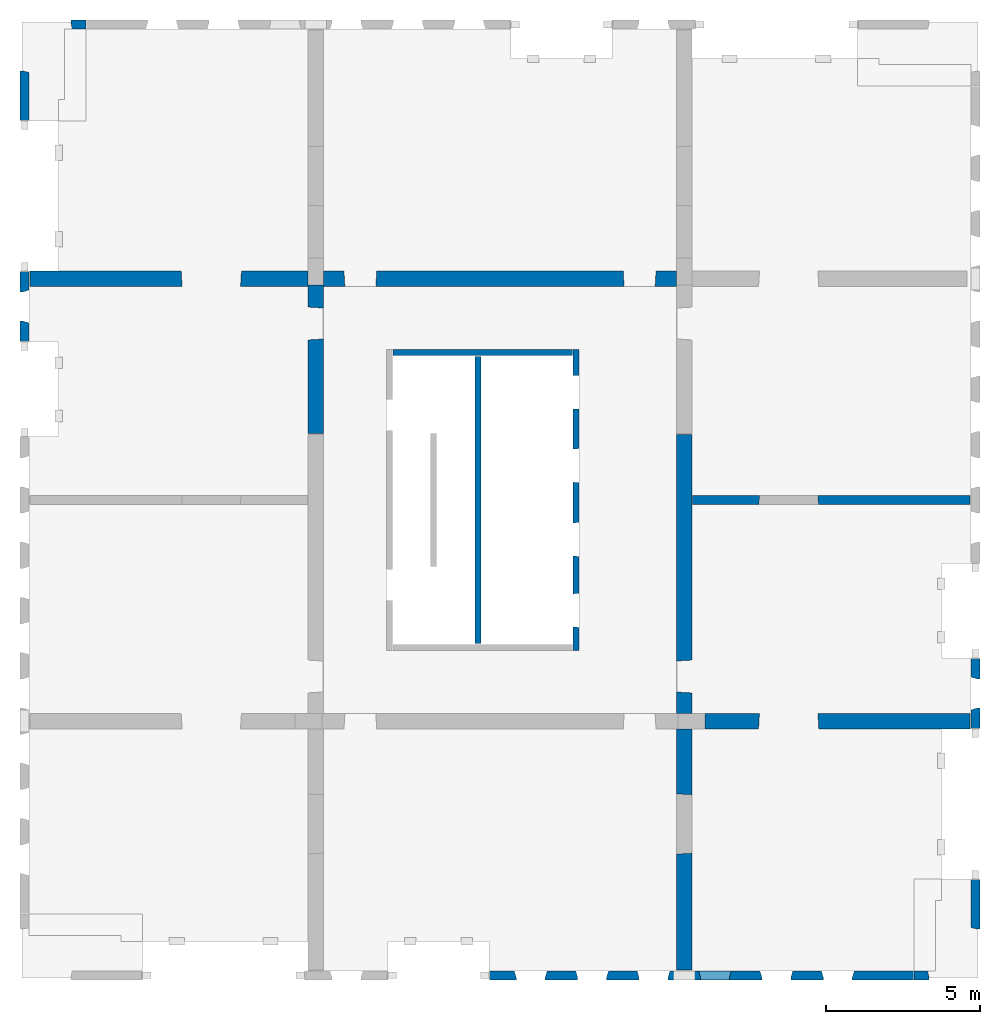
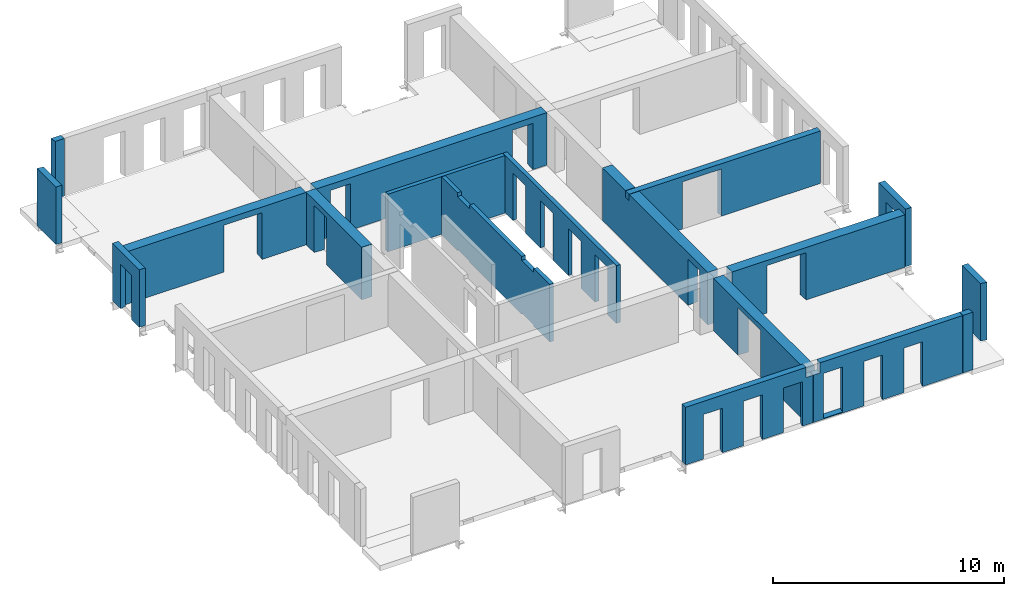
# One storey, part 3 of 4: 18 walls, 36 openings.
"""IFC2X3 building model written with IfcOpenShell, lengths in millimetres."""

from ifc_helpers import new_model, entity, si_unit, converted_unit, derived_unit, direction, frame, frame_2d, origin, origin_2d_with_axis, place, context, subcontext, project, spatial, rectangle, extrude, faceted_brep, material, layer, layer_set, layer_usage, type_object, element, save


model = new_model("IFC2X3")

# Units and contexts
model_context = context("Model", 3, precision=0.01, world=origin(), true_north=direction((6.12303176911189e-17, 1.0)))
body_context = subcontext(model_context, "Body", "Model", "MODEL_VIEW")
ifc_project = project(units=[si_unit("LENGTHUNIT", "METRE", prefix="MILLI"), si_unit("AREAUNIT", "SQUARE_METRE"), si_unit("VOLUMEUNIT", "CUBIC_METRE"), converted_unit("PLANEANGLEUNIT", "DEGREE", entity("IfcRatioMeasure", 0.0174532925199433), si_unit("PLANEANGLEUNIT", "RADIAN"), dimensions=[0, 0, 0, 0, 0, 0, 0]), si_unit("MASSUNIT", "GRAM", prefix="KILO"), derived_unit("MASSDENSITYUNIT", [(si_unit("MASSUNIT", "GRAM", prefix="KILO"), 1), (si_unit("LENGTHUNIT", "METRE"), -3)]), si_unit("TIMEUNIT", "SECOND"), si_unit("FREQUENCYUNIT", "HERTZ"), si_unit("THERMODYNAMICTEMPERATUREUNIT", "DEGREE_CELSIUS"), derived_unit("THERMALTRANSMITTANCEUNIT", [(si_unit("MASSUNIT", "GRAM", prefix="KILO"), 1), (si_unit("THERMODYNAMICTEMPERATUREUNIT", "KELVIN"), -1), (si_unit("TIMEUNIT", "SECOND"), -3)]), derived_unit("VOLUMETRICFLOWRATEUNIT", [(si_unit("LENGTHUNIT", "METRE"), 3), (si_unit("TIMEUNIT", "SECOND"), -1)]), si_unit("ELECTRICCURRENTUNIT", "AMPERE"), si_unit("ELECTRICVOLTAGEUNIT", "VOLT"), si_unit("POWERUNIT", "WATT"), si_unit("FORCEUNIT", "NEWTON", prefix="KILO"), si_unit("ILLUMINANCEUNIT", "LUX"), si_unit("LUMINOUSFLUXUNIT", "LUMEN"), si_unit("LUMINOUSINTENSITYUNIT", "CANDELA"), derived_unit("USERDEFINED", [(si_unit("MASSUNIT", "GRAM", prefix="KILO"), -1), (si_unit("LENGTHUNIT", "METRE"), -2), (si_unit("TIMEUNIT", "SECOND"), 3), (si_unit("LUMINOUSFLUXUNIT", "LUMEN"), 1)]), derived_unit("LINEARVELOCITYUNIT", [(si_unit("LENGTHUNIT", "METRE"), 1), (si_unit("TIMEUNIT", "SECOND"), -1)]), si_unit("PRESSUREUNIT", "PASCAL"), derived_unit("USERDEFINED", [(si_unit("LENGTHUNIT", "METRE"), -2), (si_unit("MASSUNIT", "GRAM", prefix="KILO"), 1), (si_unit("TIMEUNIT", "SECOND"), -2)])], contexts=[model_context])

# Site, building, storey
site_placement = place(None, origin())
site = spatial("IfcSite", under=ifc_project, at=site_placement, Name="Default", CompositionType="ELEMENT")
building_placement = place(site_placement, origin())
building = spatial("IfcBuilding", under=site, at=building_placement, Name="niet gebruiken", CompositionType="ELEMENT")
storey_placement = place(building_placement, frame((0.0, 0.0, 63900.0)))
storey = spatial("IfcBuildingStorey", under=building, at=storey_placement, Name="20 twintigste verdieping", CompositionType="ELEMENT", Elevation=63900.0000000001)

# Wall, openings
ifc_material = material(Name="NLRS_f2_beton prefab")
ifc_layer_1 = layer(ifc_material, 200.0)
ifc_layer_set_1 = layer_set([ifc_layer_1], Name="Basic Wall:NLRS_22.21_WA_beton prefab d=200_gen")
ifc_layer_usage_1 = layer_usage(ifc_layer_set_1, "AXIS2", "NEGATIVE", 100.0)
wall_type_1 = type_object("IfcWallType", Name="Basic Wall:NLRS_22.21_WA_beton prefab d=200_gen", PredefinedType="STANDARD", material=ifc_layer_set_1)
wall_1_placement = place(storey_placement, frame((144230.0, 22400.0, -50.0), z_axis=(0.0, 0.0, 1.0), x_axis=(0.0, -1.0, 0.0)))
wall_1 = element("IfcWallStandardCase", 1, at=wall_1_placement, inside=storey, type_object=wall_type_1, material=ifc_layer_usage_1, Name="Basic Wall:NLRS_22.21_WA_beton prefab d=200_gen", ObjectType="Basic Wall:NLRS_22.21_WA_beton prefab d=200_gen", context=body_context, shape_type="SweptSolid", body=[
    extrude(rectangle(XDim=9800.0, YDim=199.999999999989, at=frame_2d((4900.0, -3.69482222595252e-13), x_axis=(-1.0, 0.0))), origin(), (0.0, 0.0, 1.0), 3040.0),
])
opening_1_placement = place(wall_1_placement, frame((9047.0, -100.0, 0.0)))
element("IfcOpeningElement", 2, at=opening_1_placement, cuts=wall_1, Name="Basic Wall:NLRS_22.21_WA_beton prefab d=200_gen", ObjectType="Opening", context=body_context, shape_type="Brep", body=[
    faceted_brep([(-1104.0, 200.0, 2502.0), (-1104.0, 200.0, 0.0), (-1092.0, 0.0, 0.0), (-1092.0, 0.0, 2490.0), (0.0, 200.0, 0.0), (-12.0, 0.0, 0.0), (-12.0, 0.0, 2490.0), (0.0, 200.0, 2502.0)], [[[0, 1, 2, 3]], [[1, 4, 5, 2]], [[6, 3, 2, 5]], [[7, 4, 1, 0]], [[7, 0, 3, 6]], [[4, 7, 6, 5]]]),
])
opening_2_placement = place(wall_1_placement, frame((6737.0, -100.0, 0.0)))
element("IfcOpeningElement", 3, at=opening_2_placement, cuts=wall_1, Name="Basic Wall:NLRS_22.21_WA_beton prefab d=200_gen", ObjectType="Opening", context=body_context, shape_type="Brep", body=[
    faceted_brep([(-1104.0, 200.0, 2502.0), (-1104.0, 200.0, 0.0), (-1092.0, 0.0, 0.0), (-1092.0, 0.0, 2490.0), (0.0, 200.0, 0.0), (-12.0, 0.0, 0.0), (-12.0, 0.0, 2490.0), (0.0, 200.0, 2502.0)], [[[0, 1, 2, 3]], [[1, 4, 5, 2]], [[6, 3, 2, 5]], [[7, 4, 1, 0]], [[7, 0, 3, 6]], [[4, 7, 6, 5]]]),
])
opening_3_placement = place(wall_1_placement, frame((4332.0, -100.0, 0.0)))
element("IfcOpeningElement", 4, at=opening_3_placement, cuts=wall_1, Name="Basic Wall:NLRS_22.21_WA_beton prefab d=200_gen", ObjectType="Opening", context=body_context, shape_type="Brep", body=[
    faceted_brep([(-1104.0, 200.0, 2502.0), (-1104.0, 200.0, 0.0), (-1092.0, 0.0, 0.0), (-1092.0, 0.0, 2490.0), (0.0, 200.0, 0.0), (-12.0, 0.0, 0.0), (-12.0, 0.0, 2490.0), (0.0, 200.0, 2502.0)], [[[0, 1, 2, 3]], [[1, 4, 5, 2]], [[6, 3, 2, 5]], [[7, 4, 1, 0]], [[7, 0, 3, 6]], [[4, 7, 6, 5]]]),
])
opening_4_placement = place(wall_1_placement, frame((1942.0, -100.0, 0.0)))
element("IfcOpeningElement", 5, at=opening_4_placement, cuts=wall_1, Name="Basic Wall:NLRS_22.21_WA_beton prefab d=200_gen", ObjectType="Opening", context=body_context, shape_type="Brep", body=[
    faceted_brep([(-1104.0, 200.0, 2502.0), (-1104.0, 200.0, 0.0), (-1092.0, 0.0, 0.0), (-1092.0, 0.0, 2490.0), (0.0, 200.0, 0.0), (-12.0, 0.0, 0.0), (-12.0, 0.0, 2490.0), (0.0, 200.0, 2502.0)], [[[0, 1, 2, 3]], [[1, 4, 5, 2]], [[6, 3, 2, 5]], [[7, 4, 1, 0]], [[7, 0, 3, 6]], [[4, 7, 6, 5]]]),
])

ifc_layer_usage_2 = layer_usage(ifc_layer_set_1, "AXIS2", "NEGATIVE", 100.0)
wall_2_placement = place(storey_placement, frame((141030.0, 22180.0, -50.0), z_axis=(0.0, 0.0, 1.0), x_axis=(0.0, -1.0, 0.0)))
wall_2 = element("IfcWallStandardCase", 6, at=wall_2_placement, inside=storey, type_object=wall_type_1, material=ifc_layer_usage_2, Name="Basic Wall:NLRS_22.21_WA_beton prefab d=200_gen", ObjectType="Basic Wall:NLRS_22.21_WA_beton prefab d=200_gen", context=body_context, shape_type="SweptSolid", body=[
    extrude(rectangle(XDim=9360.0, YDim=199.999999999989, at=frame_2d((4680.0, -2.8421709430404e-14), x_axis=(-1.0, 0.0))), origin(), (0.0, 0.0, 1.0), 3040.0),
])
opening_5_placement = place(wall_2_placement, origin())
element("IfcOpeningElement", 7, at=opening_5_placement, cuts=wall_2, Name="Basic Wall:NLRS_22.21_WA_beton prefab d=200_gen", ObjectType="Opening", context=body_context, shape_type="SweptSolid", body=[
    extrude(rectangle(XDim=70.0000000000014, YDim=1044.00000000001, at=origin_2d_with_axis()), frame((7452.0, -100.0, 35.0), z_axis=(0.0, 1.0, 0.0), x_axis=(0.0, 0.0, -1.0)), (0.0, 0.0, 1.0), 199.999999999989),
])
opening_6_placement = place(wall_2_placement, origin())
element("IfcOpeningElement", 8, at=opening_6_placement, cuts=wall_2, Name="Basic Wall:NLRS_22.21_WA_beton prefab d=200_gen", ObjectType="Opening", context=body_context, shape_type="SweptSolid", body=[
    extrude(rectangle(XDim=70.0000000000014, YDim=1044.00000000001, at=origin_2d_with_axis()), frame((1908.0, -100.0, 35.0), z_axis=(0.0, 1.0, 0.0), x_axis=(0.0, 0.0, -1.0)), (0.0, 0.0, 1.0), 199.999999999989),
])
opening_7_placement = place(wall_2_placement, origin())
element("IfcOpeningElement", 9, at=opening_7_placement, cuts=wall_2, Name="Basic Wall:NLRS_22.21_WA_beton prefab d=200_gen", ObjectType="Opening", context=body_context, shape_type="SweptSolid", body=[
    extrude(rectangle(XDim=199.999999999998, YDim=1044.00000000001, at=frame_2d((4.33431068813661e-12, 0.0), x_axis=(1.0, 0.0))), frame((1908.0, -100.0, 2940.0), z_axis=(0.0, 1.0, 0.0), x_axis=(0.0, 0.0, -1.0)), (0.0, 0.0, 1.0), 199.999999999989),
])
opening_8_placement = place(wall_2_placement, origin())
element("IfcOpeningElement", 10, at=opening_8_placement, cuts=wall_2, Name="Basic Wall:NLRS_22.21_WA_beton prefab d=200_gen", ObjectType="Opening", context=body_context, shape_type="SweptSolid", body=[
    extrude(rectangle(XDim=199.999999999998, YDim=1044.00000000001, at=frame_2d((4.33431068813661e-12, 0.0), x_axis=(1.0, 0.0))), frame((7452.0, -100.0, 2940.0), z_axis=(0.0, 1.0, 0.0), x_axis=(0.0, 0.0, -1.0)), (0.0, 0.0, 1.0), 199.999999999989),
])
opening_9_placement = place(wall_2_placement, origin())
element("IfcOpeningElement", 11, at=opening_9_placement, cuts=wall_2, Name="Basic Wall:NLRS_22.21_WA_beton prefab d=200_gen", ObjectType="Recess", context=body_context, shape_type="SweptSolid", body=[
    extrude(rectangle(XDim=399.999999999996, YDim=280.000000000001, at=frame_2d((-2.1600499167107e-12, 0.0), x_axis=(0.0, 1.0))), frame((770.0, -60.0, 438.0), z_axis=(0.0, 1.0, 0.0), x_axis=(1.0, 0.0, 0.0)), (0.0, 0.0, 1.0), 159.999999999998),
])
opening_10_placement = place(wall_2_placement, origin())
element("IfcOpeningElement", 12, at=opening_10_placement, cuts=wall_2, Name="Basic Wall:NLRS_22.21_WA_beton prefab d=200_gen", ObjectType="Recess", context=body_context, shape_type="SweptSolid", body=[
    extrude(rectangle(XDim=399.999999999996, YDim=280.000000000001, at=frame_2d((-2.1600499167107e-12, 0.0), x_axis=(0.0, 1.0))), frame((1570.0, -60.0, 438.0), z_axis=(0.0, 1.0, 0.0), x_axis=(1.0, 0.0, 0.0)), (0.0, 0.0, 1.0), 159.999999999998),
])
opening_11_placement = place(wall_2_placement, origin())
element("IfcOpeningElement", 13, at=opening_11_placement, cuts=wall_2, Name="Basic Wall:NLRS_22.21_WA_beton prefab d=200_gen", ObjectType="Recess", context=body_context, shape_type="SweptSolid", body=[
    extrude(rectangle(XDim=399.999999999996, YDim=279.999999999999, at=frame_2d((-1.08002495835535e-12, 0.0), x_axis=(0.0, 1.0))), frame((3160.0, -60.0, 438.0), z_axis=(0.0, 1.0, 0.0), x_axis=(1.0, 0.0, 0.0)), (0.0, 0.0, 1.0), 159.999999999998),
])
opening_12_placement = place(wall_2_placement, origin())
element("IfcOpeningElement", 14, at=opening_12_placement, cuts=wall_2, Name="Basic Wall:NLRS_22.21_WA_beton prefab d=200_gen", ObjectType="Recess", context=body_context, shape_type="SweptSolid", body=[
    extrude(rectangle(XDim=399.999999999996, YDim=279.999999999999, at=frame_2d((1.08002495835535e-12, 0.0), x_axis=(0.0, 1.0))), frame((3960.0, -60.0, 438.0), z_axis=(0.0, 1.0, 0.0), x_axis=(1.0, 0.0, 0.0)), (0.0, 0.0, 1.0), 159.999999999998),
])

# Wall
ifc_layer_usage_3 = layer_usage(ifc_layer_set_1, "AXIS2", "NEGATIVE", 100.0)
wall_3_placement = place(storey_placement, frame((138270.0, 22300.0, -50.0)))
element("IfcWallStandardCase", 15, at=wall_3_placement, inside=storey, type_object=wall_type_1, material=ifc_layer_usage_3, Name="Basic Wall:NLRS_22.21_WA_beton prefab d=200_gen", ObjectType="Basic Wall:NLRS_22.21_WA_beton prefab d=200_gen", context=body_context, shape_type="SweptSolid", body=[
    extrude(rectangle(XDim=5839.99999999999, YDim=199.999999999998, at=frame_2d((2919.99999999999, -7.60280727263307e-13), x_axis=(-1.0, 0.0))), origin(), (0.0, 0.0, 1.0), 3040.0),
])

# Wall, openings
ifc_layer_2 = layer(ifc_material, 300.0)
ifc_layer_set_2 = layer_set([ifc_layer_2], Name="Basic Wall:NLRS_22.21_WA_beton prefab d=300_gen")
ifc_layer_usage_4 = layer_usage(ifc_layer_set_2, "AXIS2", "NEGATIVE", 150.0)
wall_type_2 = type_object("IfcWallType", Name="Basic Wall:NLRS_22.21_WA_beton prefab d=300_gen", PredefinedType="STANDARD", material=ifc_layer_set_2)
wall_4_placement = place(storey_placement, frame((157060.0, 17500.0, -70.0), z_axis=(0.0, 0.0, 1.0), x_axis=(-1.0, 0.0, 0.0)))
wall_4 = element("IfcWallStandardCase", 16, at=wall_4_placement, inside=storey, type_object=wall_type_2, material=ifc_layer_usage_4, Name="Basic Wall:NLRS_22.21_WA_beton prefab d=300_gen", ObjectType="Basic Wall:NLRS_22.21_WA_beton prefab d=300_gen", context=body_context, shape_type="SweptSolid", body=[
    extrude(rectangle(XDim=9559.99999999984, YDim=300.000000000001, at=frame_2d((4779.99999999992, 8.38440428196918e-13), x_axis=(-1.0, 0.0))), origin(), (0.0, 0.0, 1.0), 2769.99999999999),
])
opening_13_placement = place(wall_4_placement, frame((6878.0, 150.0, 0.0)))
element("IfcOpeningElement", 17, at=opening_13_placement, cuts=wall_4, Name="Basic Wall:NLRS_22.21_WA_beton prefab d=300_gen", ObjectType="Opening", context=body_context, shape_type="Brep", body=[
    faceted_brep([(-18.0, -300.0, 2470.0), (-1918.0, -300.0, 2470.0), (-1918.0, -300.0, 0.0), (-18.0, -300.0, 0.0), (0.0, 0.0, 2488.0), (0.0, 0.0, 0.0), (-1936.0, 0.0, 0.0), (-1936.0, 0.0, 2488.0)], [[[0, 1, 2, 3]], [[4, 5, 6, 7]], [[4, 7, 1, 0]], [[7, 6, 2, 1]], [[6, 5, 3, 2]], [[5, 4, 0, 3]]]),
])
opening_14_placement = place(wall_4_placement, origin())
element("IfcOpeningElement", 18, at=opening_14_placement, cuts=wall_4, Name="Basic Wall:NLRS_22.21_WA_beton prefab d=300_gen", ObjectType="Opening", context=body_context, shape_type="SweptSolid", body=[
    extrude(rectangle(XDim=2440.0, YDim=520.00000000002, at=frame_2d((0.0, 0.0), x_axis=(0.0, 1.0))), frame((9300.0, 150.0, 1220.0), z_axis=(0.0, -1.0, 0.0), x_axis=(1.0, 0.0, 0.0)), (0.0, 0.0, 1.0), 300.0),
])

ifc_layer_3 = layer(ifc_material, 500.0)
ifc_layer_set_3 = layer_set([ifc_layer_3], Name="Basic Wall:NLRS_22.21_WA_beton prefab d=500_gen")
ifc_layer_usage_5 = layer_usage(ifc_layer_set_3, "AXIS2", "NEGATIVE", 250.0)
wall_type_3 = type_object("IfcWallType", Name="Basic Wall:NLRS_22.21_WA_beton prefab d=500_gen", PredefinedType="STANDARD", material=ifc_layer_set_3)
wall_5_placement = place(storey_placement, frame((136000.003540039, 24700.0, -70.0)))
wall_5 = element("IfcWallStandardCase", 19, at=wall_5_placement, inside=storey, type_object=wall_type_3, material=ifc_layer_usage_5, Name="Basic Wall:NLRS_22.21_WA_beton prefab d=500_gen", ObjectType="Basic Wall:NLRS_22.21_WA_beton prefab d=500_gen", context=body_context, shape_type="SweptSolid", body=[
    extrude(rectangle(XDim=11499.9964599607, YDim=499.999999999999, at=frame_2d((5749.99822998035, 0.0), x_axis=(-1.0, 0.0))), origin(), (0.0, 0.0, 1.0), 2770.00000000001),
])
opening_15_placement = place(wall_5_placement, frame((669.996459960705, -250.0, 0.0)))
element("IfcOpeningElement", 20, at=opening_15_placement, cuts=wall_5, Name="Basic Wall:NLRS_22.21_WA_beton prefab d=500_gen", ObjectType="Opening", context=body_context, shape_type="Brep", body=[
    faceted_brep([(1066.0, 500.0, 2478.0), (1036.0, 0.0, 2448.0), (1036.0, 0.0, 0.0), (1066.0, 500.0, 0.0), (30.0, 0.0, 0.0), (0.0, 500.0, 0.0), (30.0, 0.0, 2448.0), (0.0, 500.0, 2478.0)], [[[0, 1, 2, 3]], [[3, 2, 4, 5]], [[6, 4, 2, 1]], [[7, 0, 3, 5]], [[7, 6, 1, 0]], [[5, 4, 6, 7]]]),
])
opening_16_placement = place(wall_5_placement, frame((9763.99645996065, -250.0, 0.0)))
element("IfcOpeningElement", 21, at=opening_16_placement, cuts=wall_5, Name="Basic Wall:NLRS_22.21_WA_beton prefab d=500_gen", ObjectType="Opening", context=body_context, shape_type="Brep", body=[
    faceted_brep([(30.0, 0.0, 2448.0), (30.0, 0.0, 0.0), (1036.0, 0.0, 0.0), (1036.0, 0.0, 2448.0), (0.0, 500.0, 2478.0), (1066.0, 500.0, 2478.0), (1066.0, 500.0, 0.0), (0.0, 500.0, 0.0)], [[[0, 1, 2, 3]], [[4, 5, 6, 7]], [[4, 0, 3, 5]], [[5, 3, 2, 6]], [[6, 2, 1, 7]], [[7, 1, 0, 4]]]),
])

# Wall, opening
ifc_layer_usage_6 = layer_usage(ifc_layer_set_3, "AXIS2", "NEGATIVE", 250.0)
wall_6_placement = place(storey_placement, frame((135750.0, 24500.0, -70.0), z_axis=(0.0, 0.0, 1.0), x_axis=(0.0, -1.0, 0.0)))
wall_6 = element("IfcWallStandardCase", 22, at=wall_6_placement, inside=storey, type_object=wall_type_3, material=ifc_layer_usage_6, Name="Basic Wall:NLRS_22.21_WA_beton prefab d=500_gen", ObjectType="Basic Wall:NLRS_22.21_WA_beton prefab d=500_gen", context=body_context, shape_type="SweptSolid", body=[
    extrude(rectangle(XDim=4840.0, YDim=499.99999999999, at=frame_2d((2420.0, 0.0), x_axis=(-1.0, 0.0))), origin(), (0.0, 0.0, 1.0), 2770.00000000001),
])
opening_17_placement = place(wall_6_placement, frame((1786.0, -250.0, 0.0)))
element("IfcOpeningElement", 23, at=opening_17_placement, cuts=wall_6, Name="Basic Wall:NLRS_22.21_WA_beton prefab d=500_gen", ObjectType="Opening", context=body_context, shape_type="Brep", body=[
    faceted_brep([(-1066.0, 0.0, 2478.0), (-1036.0, 500.0, 2448.0), (-1036.0, 500.0, 0.0), (-1066.0, 0.0, 0.0), (-30.0, 500.0, 0.0), (0.0, 0.0, 0.0), (-30.0, 500.0, 2448.0), (0.0, 0.0, 2478.0)], [[[0, 1, 2, 3]], [[3, 2, 4, 5]], [[6, 4, 2, 1]], [[7, 0, 3, 5]], [[7, 6, 1, 0]], [[5, 4, 6, 7]]]),
])

ifc_layer_usage_7 = layer_usage(ifc_layer_set_3, "AXIS2", "NEGATIVE", 250.0)
wall_7_placement = place(storey_placement, frame((147750.0, 10050.0, -70.0), z_axis=(0.0, 0.0, 1.0), x_axis=(0.0, -1.0, 0.0)))
wall_7 = element("IfcWallStandardCase", 24, at=wall_7_placement, inside=storey, type_object=wall_type_3, material=ifc_layer_usage_7, Name="Basic Wall:NLRS_22.21_WA_beton prefab d=500_gen", ObjectType="Basic Wall:NLRS_22.21_WA_beton prefab d=500_gen", context=body_context, shape_type="SweptSolid", body=[
    extrude(rectangle(XDim=7859.99999999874, YDim=499.99999999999, at=frame_2d((3929.99999999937, -5.11590769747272e-13), x_axis=(-1.0, 0.0))), origin(), (0.0, 0.0, 1.0), 2769.99999999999),
])
opening_18_placement = place(wall_7_placement, frame((4080.0, -250.0, 0.0)))
element("IfcOpeningElement", 25, at=opening_18_placement, cuts=wall_7, Name="Basic Wall:NLRS_22.21_WA_beton prefab d=500_gen", ObjectType="Opening", context=body_context, shape_type="Brep", body=[
    faceted_brep([(-30.0, 500.0, 2470.0), (-30.0, 500.0, 0.0), (-1930.0, 500.0, 0.0), (-1930.0, 500.0, 2470.0), (0.0, 0.0, 2500.0), (-1960.0, 0.0, 2500.0), (-1960.0, 0.0, 0.0), (0.0, 0.0, 0.0)], [[[0, 1, 2, 3]], [[4, 5, 6, 7]], [[4, 0, 3, 5]], [[5, 3, 2, 6]], [[6, 2, 1, 7]], [[7, 1, 0, 4]]]),
])

ifc_layer_usage_8 = layer_usage(ifc_layer_set_3, "AXIS2", "NEGATIVE", 250.0)
wall_8_placement = place(storey_placement, frame((148430.0, 10300.0, -70.0)))
wall_8 = element("IfcWallStandardCase", 26, at=wall_8_placement, inside=storey, type_object=wall_type_3, material=ifc_layer_usage_8, Name="Basic Wall:NLRS_22.21_WA_beton prefab d=500_gen", ObjectType="Basic Wall:NLRS_22.21_WA_beton prefab d=500_gen", context=body_context, shape_type="SweptSolid", body=[
    extrude(rectangle(XDim=8630.00000000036, YDim=499.999999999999, at=frame_2d((4315.00000000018, 2.70006239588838e-13), x_axis=(-1.0, 0.0))), origin(), (0.0, 0.0, 1.0), 2769.99999999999),
])
opening_19_placement = place(wall_8_placement, frame((1740.0, -250.0, 0.0)))
element("IfcOpeningElement", 27, at=opening_19_placement, cuts=wall_8, Name="Basic Wall:NLRS_22.21_WA_beton prefab d=500_gen", ObjectType="Opening", context=body_context, shape_type="Brep", body=[
    faceted_brep([(30.0, 500.0, 2470.0), (1930.0, 500.0, 2470.0), (1930.0, 500.0, 0.0), (30.0, 500.0, 0.0), (0.0, 0.0, 2500.0), (0.0, 0.0, 0.0), (1960.0, 0.0, 0.0), (1960.0, 0.0, 2500.0)], [[[0, 1, 2, 3]], [[4, 5, 6, 7]], [[4, 7, 1, 0]], [[7, 6, 2, 1]], [[6, 5, 3, 2]], [[5, 4, 0, 3]]]),
])

ifc_layer_usage_9 = layer_usage(ifc_layer_set_3, "AXIS2", "NEGATIVE", 250.0)
wall_9_placement = place(storey_placement, frame((135500.003540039, 24700.0, -70.0), z_axis=(0.0, 0.0, 1.0), x_axis=(-1.0, 0.0, 0.0)))
wall_9 = element("IfcWallStandardCase", 28, at=wall_9_placement, inside=storey, type_object=wall_type_3, material=ifc_layer_usage_9, Name="Basic Wall:NLRS_22.21_WA_beton prefab d=500_gen", ObjectType="Basic Wall:NLRS_22.21_WA_beton prefab d=500_gen", context=body_context, shape_type="SweptSolid", body=[
    extrude(rectangle(XDim=9060.00354003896, YDim=499.999999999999, at=frame_2d((4530.00177001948, 7.24753590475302e-13), x_axis=(-1.0, 0.0))), origin(), (0.0, 0.0, 1.0), 2769.99999999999),
])
opening_20_placement = place(wall_9_placement, frame((4130.00354003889, 250.0, 0.0)))
element("IfcOpeningElement", 29, at=opening_20_placement, cuts=wall_9, Name="Basic Wall:NLRS_22.21_WA_beton prefab d=500_gen", ObjectType="Opening", context=body_context, shape_type="Brep", body=[
    faceted_brep([(-1930.0, 0.0, 2470.0), (-30.0, 0.0, 2470.0), (-30.0, 0.0, 0.0), (-1930.0, 0.0, 0.0), (-1960.0, -500.0, 2500.0), (-1960.0, -500.0, 0.0), (0.0, -500.0, 0.0), (0.0, -500.0, 2500.0)], [[[0, 1, 2, 3]], [[4, 5, 6, 7]], [[4, 7, 1, 0]], [[7, 6, 2, 1]], [[6, 5, 3, 2]], [[5, 4, 0, 3]]]),
])

# Wall, openings
ifc_layer_usage_10 = layer_usage(ifc_layer_set_3, "AXIS2", "NEGATIVE", 250.0)
wall_10_placement = place(storey_placement, frame((147750.0, 19640.0, -70.0), z_axis=(0.0, 0.0, 1.0), x_axis=(0.0, -1.0, 0.0)))
wall_10 = element("IfcWallStandardCase", 30, at=wall_10_placement, inside=storey, type_object=wall_type_3, material=ifc_layer_usage_10, Name="Basic Wall:NLRS_22.21_WA_beton prefab d=500_gen", ObjectType="Basic Wall:NLRS_22.21_WA_beton prefab d=500_gen", context=body_context, shape_type="SweptSolid", body=[
    extrude(rectangle(XDim=9089.99999999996, YDim=499.99999999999, at=frame_2d((4544.99999999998, 0.0), x_axis=(-1.0, 0.0))), origin(), (0.0, 0.0, 1.0), 2770.00000000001),
])
opening_21_placement = place(wall_10_placement, frame((8420.0, -250.0, 0.0)))
element("IfcOpeningElement", 31, at=opening_21_placement, cuts=wall_10, Name="Basic Wall:NLRS_22.21_WA_beton prefab d=500_gen", ObjectType="Opening", context=body_context, shape_type="Brep", body=[
    faceted_brep([(-1066.0, 500.0, 2478.0), (-1066.0, 500.0, 0.0), (-1036.0, 0.0, 0.0), (-1036.0, 0.0, 2448.0), (0.0, 500.0, 0.0), (-30.0, 0.0, 0.0), (-30.0, 0.0, 2448.0), (0.0, 500.0, 2478.0)], [[[0, 1, 2, 3]], [[1, 4, 5, 2]], [[6, 3, 2, 5]], [[7, 4, 1, 0]], [[7, 0, 3, 6]], [[4, 7, 6, 5]]]),
])
opening_22_placement = place(wall_10_placement, origin())
element("IfcOpeningElement", 32, at=opening_22_placement, cuts=wall_10, Name="Basic Wall:NLRS_22.21_WA_beton prefab d=500_gen", ObjectType="Opening", context=body_context, shape_type="SweptSolid", body=[
    extrude(rectangle(XDim=350.000000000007, YDim=339.999999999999, at=frame_2d((-1.08002495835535e-12, 0.0), x_axis=(0.0, 1.0))), frame((2140.0, 250.0, 2595.0), z_axis=(0.0, -1.0, 0.0), x_axis=(-1.0, 0.0, 0.0)), (0.0, 0.0, 1.0), 500.0),
])

# Wall, opening
ifc_layer_4 = layer(ifc_material, 300.0)
ifc_layer_set_4 = layer_set([ifc_layer_4], Name="Basic Wall:NLRS_21.21_WA_beton prefab d=300/320_gen")
ifc_layer_usage_11 = layer_usage(ifc_layer_set_4, "AXIS2", "NEGATIVE", 150.0)
wall_type_4 = type_object("IfcWallType", Name="Basic Wall:NLRS_21.21_WA_beton prefab d=300/320_gen", PredefinedType="STANDARD", material=ifc_layer_set_4)
wall_11_placement = place(storey_placement, frame((157230.0, 12360.0, -50.0), z_axis=(0.0, 0.0, 1.0), x_axis=(0.0, -1.0, 0.0)))
wall_11 = element("IfcWallStandardCase", 33, at=wall_11_placement, inside=storey, type_object=wall_type_4, material=ifc_layer_usage_11, Name="Basic Wall:NLRS_21.21_WA_beton prefab d=300/320_gen", ObjectType="Basic Wall:NLRS_21.21_WA_beton prefab d=300/320_gen", context=body_context, shape_type="SweptSolid", body=[
    extrude(rectangle(XDim=2320.00000000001, YDim=300.000000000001, at=frame_2d((1160.0, -8.38440428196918e-12), x_axis=(-1.0, 0.0))), origin(), (0.0, 0.0, 1.0), 3040.0),
])
opening_23_placement = place(wall_11_placement, frame((1695.0, -150.0, -20.0)))
element("IfcOpeningElement", 34, at=opening_23_placement, cuts=wall_11, Name="Basic Wall:NLRS_21.21_WA_beton prefab d=300/320_gen", ObjectType="Opening", context=body_context, shape_type="Brep", body=[
    faceted_brep([(-1070.0, 0.0, 2405.0), (-1070.0, 0.0, 0.0), (0.0, 0.0, 0.0), (0.0, 0.0, 2405.0), (-65.0, 219.0, 2370.0), (-1005.0, 219.0, 2370.0), (-65.0, 219.0, 0.0), (-1005.0, 219.0, 0.0), (-1005.0, 300.0, 0.0), (-65.0, 300.0, 0.0), (-1005.0, 300.0, 2370.0), (-65.0, 300.0, 2370.0)], [[[0, 1, 2, 3]], [[3, 4, 5, 0]], [[2, 6, 4, 3]], [[1, 7, 8, 9, 6, 2]], [[0, 5, 7, 1]], [[10, 11, 9, 8]], [[10, 5, 4, 11]], [[11, 4, 6, 9]], [[8, 7, 5, 10]]]),
])

ifc_layer_usage_12 = layer_usage(ifc_layer_set_4, "AXIS2", "NEGATIVE", 150.0)
wall_12_placement = place(storey_placement, frame((126270.0, 22640.0, -50.0), z_axis=(0.0, 0.0, 1.0), x_axis=(0.0, 1.0, 0.0)))
wall_12 = element("IfcWallStandardCase", 35, at=wall_12_placement, inside=storey, type_object=wall_type_4, material=ifc_layer_usage_12, Name="Basic Wall:NLRS_21.21_WA_beton prefab d=300/320_gen", ObjectType="Basic Wall:NLRS_21.21_WA_beton prefab d=300/320_gen", context=body_context, shape_type="SweptSolid", body=[
    extrude(rectangle(XDim=2320.0, YDim=300.000000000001, at=frame_2d((1160.0, -3.60955709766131e-12), x_axis=(-1.0, 0.0))), origin(), (0.0, 0.0, 1.0), 3040.0),
])
opening_24_placement = place(wall_12_placement, frame((625.0, 150.0, -20.0)))
element("IfcOpeningElement", 36, at=opening_24_placement, cuts=wall_12, Name="Basic Wall:NLRS_21.21_WA_beton prefab d=300/320_gen", ObjectType="Opening", context=body_context, shape_type="Brep", body=[
    faceted_brep([(0.0, -300.0, 2405.0), (0.0, -300.0, 0.0), (1070.0, -300.0, 0.0), (1070.0, -300.0, 2405.0), (1005.0, -81.0, 2370.0), (65.0, -81.0, 2370.0), (1005.0, -81.0, 0.0), (65.0, -81.0, 0.0), (65.0, 0.0, 0.0), (1005.0, 0.0, 0.0), (65.0, 0.0, 2370.0), (1005.0, 0.0, 2370.0)], [[[0, 1, 2, 3]], [[3, 4, 5, 0]], [[2, 6, 4, 3]], [[1, 7, 8, 9, 6, 2]], [[0, 5, 7, 1]], [[10, 11, 9, 8]], [[10, 5, 4, 11]], [[11, 4, 6, 9]], [[8, 7, 5, 10]]]),
])

# Wall, openings
ifc_layer_usage_13 = layer_usage(ifc_layer_set_4, "AXIS2", "NEGATIVE", 150.0)
wall_13_placement = place(storey_placement, frame((155210.0, 2020.0, -50.0), z_axis=(0.0, 0.0, 1.0), x_axis=(-1.0, 0.0, 0.0)))
wall_13 = element("IfcWallStandardCase", 37, at=wall_13_placement, inside=storey, type_object=wall_type_4, material=ifc_layer_usage_13, Name="Basic Wall:NLRS_21.21_WA_beton prefab d=300/320_gen", ObjectType="Basic Wall:NLRS_21.21_WA_beton prefab d=300/320_gen", context=body_context, shape_type="SweptSolid", body=[
    extrude(rectangle(XDim=7449.99999999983, YDim=300.0, at=frame_2d((3724.99999999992, 5.6843418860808e-14), x_axis=(-1.0, 0.0))), origin(), (0.0, 0.0, 1.0), 3040.0),
])
opening_25_placement = place(wall_13_placement, frame((4995.0, 150.0, -20.0)))
element("IfcOpeningElement", 38, at=opening_25_placement, cuts=wall_13, Name="Basic Wall:NLRS_21.21_WA_beton prefab d=300/320_gen", ObjectType="Opening", context=body_context, shape_type="Brep", body=[
    faceted_brep([(0.0, -300.0, 2405.0), (-1070.0, -300.0, 2405.0), (-1070.0, -300.0, 0.0), (0.0, -300.0, 0.0), (-65.0, -81.0, 2370.0), (-1005.0, -81.0, 2370.0), (-1005.0, -81.0, 0.0), (-1005.0, 0.0, 0.0), (-65.0, 0.0, 0.0), (-65.0, -81.0, 0.0), (-65.0, 0.0, 2370.0), (-1005.0, 0.0, 2370.0)], [[[0, 1, 2, 3]], [[1, 0, 4, 5]], [[2, 1, 5, 6]], [[3, 2, 6, 7, 8, 9]], [[0, 3, 9, 4]], [[10, 8, 7, 11]], [[10, 11, 5, 4]], [[11, 7, 6, 5]], [[8, 10, 4, 9]]]),
])
opening_26_placement = place(wall_13_placement, frame((2995.0, 150.0, -20.0)))
element("IfcOpeningElement", 39, at=opening_26_placement, cuts=wall_13, Name="Basic Wall:NLRS_21.21_WA_beton prefab d=300/320_gen", ObjectType="Opening", context=body_context, shape_type="Brep", body=[
    faceted_brep([(0.0, -300.0, 2405.0), (-1070.0, -300.0, 2405.0), (-1070.0, -300.0, 0.0), (0.0, -300.0, 0.0), (-65.0, -81.0, 2370.0), (-1005.0, -81.0, 2370.0), (-1005.0, -81.0, 0.0), (-1005.0, 0.0, 0.0), (-65.0, 0.0, 0.0), (-65.0, -81.0, 0.0), (-65.0, 0.0, 2370.0), (-1005.0, 0.0, 2370.0)], [[[0, 1, 2, 3]], [[1, 0, 4, 5]], [[2, 1, 5, 6]], [[3, 2, 6, 7, 8, 9]], [[0, 3, 9, 4]], [[10, 8, 7, 11]], [[10, 11, 5, 4]], [[11, 7, 6, 5]], [[8, 10, 4, 9]]]),
])
opening_27_placement = place(wall_13_placement, frame((6995.0, 150.0, 50.0)))
element("IfcOpeningElement", 40, at=opening_27_placement, cuts=wall_13, Name="Basic Wall:NLRS_21.21_WA_beton prefab d=300/320_gen", ObjectType="Opening", context=body_context, shape_type="Brep", body=[
    faceted_brep([(0.0, -300.0, 2405.0), (-1070.0, -300.0, 2405.0), (-1070.0, -300.0, 0.0), (0.0, -300.0, 0.0), (-65.0, -81.0, 2370.0), (-1005.0, -81.0, 2370.0), (-1005.0, -81.0, 0.0), (-1005.0, 0.0, 0.0), (-65.0, 0.0, 0.0), (-65.0, -81.0, 0.0), (-65.0, 0.0, 2370.0), (-1005.0, 0.0, 2370.0)], [[[0, 1, 2, 3]], [[1, 0, 4, 5]], [[2, 1, 5, 6]], [[3, 2, 6, 7, 8, 9]], [[0, 3, 9, 4]], [[10, 8, 7, 11]], [[10, 11, 5, 4]], [[11, 7, 6, 5]], [[8, 10, 4, 9]]]),
])
opening_28_placement = place(wall_13_placement, origin())
element("IfcOpeningElement", 41, at=opening_28_placement, cuts=wall_13, Name="Basic Wall:NLRS_21.21_WA_beton prefab d=300/320_gen", ObjectType="Opening", context=body_context, shape_type="SweptSolid", body=[
    extrude(rectangle(XDim=535.0, YDim=344.999999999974, at=origin_2d_with_axis()), frame((7277.49999999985, 150.0, 2772.5), z_axis=(0.0, -1.0, 0.0), x_axis=(0.0, 0.0, 1.0)), (0.0, 0.0, 1.0), 300.0),
])

# Wall, opening
ifc_layer_usage_14 = layer_usage(ifc_layer_set_4, "AXIS2", "NEGATIVE", 150.0)
wall_14_placement = place(storey_placement, frame((127780.0, 32980.0, -50.0)))
wall_14 = element("IfcWallStandardCase", 42, at=wall_14_placement, inside=storey, type_object=wall_type_4, material=ifc_layer_usage_14, Name="Basic Wall:NLRS_21.21_WA_beton prefab d=300/320_gen", ObjectType="Basic Wall:NLRS_21.21_WA_beton prefab d=300/320_gen", context=body_context, shape_type="SweptSolid", body=[
    extrude(rectangle(XDim=489.999999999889, YDim=300.000000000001, at=frame_2d((244.999999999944, -6.67910171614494e-13), x_axis=(-1.0, 0.0))), origin(), (0.0, 0.0, 1.0), 3040.0),
])
opening_29_placement = place(wall_14_placement, frame((0.0, -250.0, 0.0)))
element("IfcOpeningElement", 43, at=opening_29_placement, cuts=wall_14, Name="Basic Wall:NLRS_21.21_WA_beton prefab d=300/320_gen", ObjectType="Opening", context=body_context, shape_type="Brep", body=[
    faceted_brep([(0.0, 0.0, 3040.0), (65.0, 0.0, 3040.0), (0.0, 319.0, 3040.0), (0.0, 0.0, 0.0), (0.0, 319.0, 0.0), (65.0, 0.0, 0.0)], [[[0, 1, 2]], [[3, 4, 5]], [[1, 0, 3, 5]], [[0, 2, 4, 3]], [[2, 1, 5, 4]]]),
])

ifc_layer_usage_15 = layer_usage(ifc_layer_set_4, "AXIS2", "NEGATIVE", 150.0)
wall_15_placement = place(storey_placement, frame((126270.0, 29840.0, -50.0), z_axis=(0.0, 0.0, 1.0), x_axis=(0.0, 1.0, 0.0)))
wall_15 = element("IfcWallStandardCase", 44, at=wall_15_placement, inside=storey, type_object=wall_type_4, material=ifc_layer_usage_15, Name="Basic Wall:NLRS_21.21_WA_beton prefab d=300/320_gen", ObjectType="Basic Wall:NLRS_21.21_WA_beton prefab d=300/320_gen", context=body_context, shape_type="SweptSolid", body=[
    extrude(rectangle(XDim=1629.99999999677, YDim=300.000000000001, at=frame_2d((814.999999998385, 8.95283847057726e-13), x_axis=(-1.0, 0.0))), origin(), (0.0, 0.0, 1.0), 3040.0),
])
opening_30_placement = place(wall_15_placement, frame((1565.0, 69.0, 0.0)))
element("IfcOpeningElement", 45, at=opening_30_placement, cuts=wall_15, Name="Basic Wall:NLRS_21.21_WA_beton prefab d=300/320_gen", ObjectType="Opening", context=body_context, shape_type="Brep", body=[
    faceted_brep([(65.0, -319.0, 3040.0), (65.0, 0.0, 3040.0), (0.0, -319.0, 3040.0), (65.0, -319.0, 0.0), (0.0, -319.0, 0.0), (65.0, 0.0, 0.0)], [[[0, 1, 2]], [[3, 4, 5]], [[2, 4, 3, 0]], [[0, 3, 5, 1]], [[1, 5, 4, 2]]]),
])

ifc_layer_usage_16 = layer_usage(ifc_layer_set_4, "AXIS2", "NEGATIVE", 150.0)
wall_16_placement = place(storey_placement, frame((155720.0, 2020.0, -50.0), z_axis=(0.0, 0.0, 1.0), x_axis=(-1.0, 0.0, 0.0)))
wall_16 = element("IfcWallStandardCase", 46, at=wall_16_placement, inside=storey, type_object=wall_type_4, material=ifc_layer_usage_16, Name="Basic Wall:NLRS_21.21_WA_beton prefab d=300/320_gen", ObjectType="Basic Wall:NLRS_21.21_WA_beton prefab d=300/320_gen", context=body_context, shape_type="SweptSolid", body=[
    extrude(rectangle(XDim=489.999999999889, YDim=300.0, at=frame_2d((244.999999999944, 4.2632564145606e-14), x_axis=(-1.0, 0.0))), origin(), (0.0, 0.0, 1.0), 3040.0),
])
opening_31_placement = place(wall_16_placement, frame((65.0, 69.0, 0.0)))
element("IfcOpeningElement", 47, at=opening_31_placement, cuts=wall_16, Name="Basic Wall:NLRS_21.21_WA_beton prefab d=300/320_gen", ObjectType="Opening", context=body_context, shape_type="Brep", body=[
    faceted_brep([(-65.0, -319.0, 3040.0), (0.0, -319.0, 3040.0), (-65.0, 0.0, 3040.0), (-65.0, -319.0, 0.0), (-65.0, 0.0, 0.0), (0.0, -319.0, 0.0)], [[[0, 1, 2]], [[3, 4, 5]], [[1, 0, 3, 5]], [[0, 2, 4, 3]], [[2, 1, 5, 4]]]),
])

ifc_layer_usage_17 = layer_usage(ifc_layer_set_4, "AXIS2", "NEGATIVE", 150.0)
wall_17_placement = place(storey_placement, frame((157230.0, 5160.0, -50.0), z_axis=(0.0, 0.0, 1.0), x_axis=(0.0, -1.0, 0.0)))
wall_17 = element("IfcWallStandardCase", 48, at=wall_17_placement, inside=storey, type_object=wall_type_4, material=ifc_layer_usage_17, Name="Basic Wall:NLRS_21.21_WA_beton prefab d=300/320_gen", ObjectType="Basic Wall:NLRS_21.21_WA_beton prefab d=300/320_gen", context=body_context, shape_type="SweptSolid", body=[
    extrude(rectangle(XDim=1629.99999999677, YDim=300.000000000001, at=frame_2d((814.999999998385, 4.76063632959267e-12), x_axis=(-1.0, 0.0))), origin(), (0.0, 0.0, 1.0), 3040.0),
])
opening_32_placement = place(wall_17_placement, frame((1630.0, -250.0, 0.0)))
element("IfcOpeningElement", 49, at=opening_32_placement, cuts=wall_17, Name="Basic Wall:NLRS_21.21_WA_beton prefab d=300/320_gen", ObjectType="Opening", context=body_context, shape_type="Brep", body=[
    faceted_brep([(0.0, 0.0, 3040.0), (0.0, 319.0, 3040.0), (-65.0, 0.0, 3040.0), (0.0, 0.0, 0.0), (-65.0, 0.0, 0.0), (0.0, 319.0, 0.0)], [[[0, 1, 2]], [[3, 4, 5]], [[2, 4, 3, 0]], [[0, 3, 5, 1]], [[1, 5, 4, 2]]]),
])

# Wall, openings
ifc_layer_usage_18 = layer_usage(ifc_layer_set_4, "AXIS2", "NEGATIVE", 150.0)
wall_18_placement = place(storey_placement, frame((147740.0, 2020.0, -50.0), z_axis=(0.0, 0.0, 1.0), x_axis=(-1.0, 0.0, 0.0)))
wall_18 = element("IfcWallStandardCase", 50, at=wall_18_placement, inside=storey, type_object=wall_type_4, material=ifc_layer_usage_18, Name="Basic Wall:NLRS_21.21_WA_beton prefab d=300/320_gen", ObjectType="Basic Wall:NLRS_21.21_WA_beton prefab d=300/320_gen", context=body_context, shape_type="SweptSolid", body=[
    extrude(rectangle(XDim=6350.00000000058, YDim=300.0, at=frame_2d((3175.00000000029, -4.2632564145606e-14), x_axis=(-1.0, 0.0))), origin(), (0.0, 0.0, 1.0), 3040.0),
])
opening_33_placement = place(wall_18_placement, frame((1525.0, 150.0, -20.0)))
element("IfcOpeningElement", 51, at=opening_33_placement, cuts=wall_18, Name="Basic Wall:NLRS_21.21_WA_beton prefab d=300/320_gen", ObjectType="Opening", context=body_context, shape_type="Brep", body=[
    faceted_brep([(0.0, -300.0, 2405.0), (-1070.0, -300.0, 2405.0), (-1070.0, -300.0, 0.0), (0.0, -300.0, 0.0), (-65.0, -81.0, 2370.0), (-1005.0, -81.0, 2370.0), (-1005.0, -81.0, 0.0), (-1005.0, 0.0, 0.0), (-65.0, 0.0, 0.0), (-65.0, -81.0, 0.0), (-65.0, 0.0, 2370.0), (-1005.0, 0.0, 2370.0)], [[[0, 1, 2, 3]], [[1, 0, 4, 5]], [[2, 1, 5, 6]], [[3, 2, 6, 7, 8, 9]], [[0, 3, 9, 4]], [[10, 8, 7, 11]], [[10, 11, 5, 4]], [[11, 7, 6, 5]], [[8, 10, 4, 9]]]),
])
opening_34_placement = place(wall_18_placement, frame((3525.0, 150.0, -20.0)))
element("IfcOpeningElement", 52, at=opening_34_placement, cuts=wall_18, Name="Basic Wall:NLRS_21.21_WA_beton prefab d=300/320_gen", ObjectType="Opening", context=body_context, shape_type="Brep", body=[
    faceted_brep([(0.0, -300.0, 2405.0), (-1070.0, -300.0, 2405.0), (-1070.0, -300.0, 0.0), (0.0, -300.0, 0.0), (-65.0, -81.0, 2370.0), (-1005.0, -81.0, 2370.0), (-1005.0, -81.0, 0.0), (-1005.0, 0.0, 0.0), (-65.0, 0.0, 0.0), (-65.0, -81.0, 0.0), (-65.0, 0.0, 2370.0), (-1005.0, 0.0, 2370.0)], [[[0, 1, 2, 3]], [[1, 0, 4, 5]], [[2, 1, 5, 6]], [[3, 2, 6, 7, 8, 9]], [[0, 3, 9, 4]], [[10, 8, 7, 11]], [[10, 11, 5, 4]], [[11, 7, 6, 5]], [[8, 10, 4, 9]]]),
])
opening_35_placement = place(wall_18_placement, frame((5525.0, 150.0, -20.0)))
element("IfcOpeningElement", 53, at=opening_35_placement, cuts=wall_18, Name="Basic Wall:NLRS_21.21_WA_beton prefab d=300/320_gen", ObjectType="Opening", context=body_context, shape_type="Brep", body=[
    faceted_brep([(0.0, -300.0, 2405.0), (-1070.0, -300.0, 2405.0), (-1070.0, -300.0, 0.0), (0.0, -300.0, 0.0), (-65.0, -81.0, 2370.0), (-1005.0, -81.0, 2370.0), (-1005.0, -81.0, 0.0), (-1005.0, 0.0, 0.0), (-65.0, 0.0, 0.0), (-65.0, -81.0, 0.0), (-65.0, 0.0, 2370.0), (-1005.0, 0.0, 2370.0)], [[[0, 1, 2, 3]], [[1, 0, 4, 5]], [[2, 1, 5, 6]], [[3, 2, 6, 7, 8, 9]], [[0, 3, 9, 4]], [[10, 8, 7, 11]], [[10, 11, 5, 4]], [[11, 7, 6, 5]], [[8, 10, 4, 9]]]),
])
opening_36_placement = place(wall_18_placement, origin())
element("IfcOpeningElement", 54, at=opening_36_placement, cuts=wall_18, Name="Basic Wall:NLRS_21.21_WA_beton prefab d=300/320_gen", ObjectType="Opening", context=body_context, shape_type="SweptSolid", body=[
    extrude(rectangle(XDim=534.999999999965, YDim=345.000000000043, at=frame_2d((0.0, 0.0), x_axis=(0.0, 1.0))), frame((172.500000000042, 150.0, 2772.50000000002), z_axis=(0.0, -1.0, 0.0), x_axis=(-1.0, 0.0, 0.0)), (0.0, 0.0, 1.0), 300.0),
])

save(model, "model.ifc")
